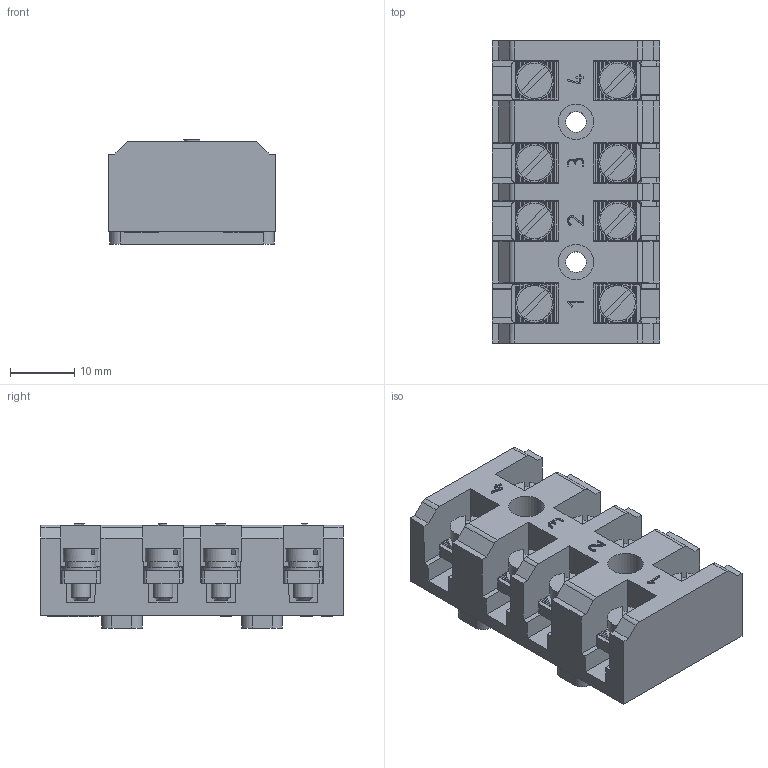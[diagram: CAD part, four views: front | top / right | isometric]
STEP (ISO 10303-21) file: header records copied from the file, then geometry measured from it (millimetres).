
FILE_DESCRIPTION(('STEP AP214'), '1');
FILE_NAME('Ñáîðêà 10 À äåòàëü', '2024-05-20T04:29:00', (''), (''), 'ASCON STEP Converter 1.6', 'ASCON Math Kernel', '');
FILE_SCHEMA(('AUTOMOTIVE_DESIGN { 1 0 10303 214 3 1 1}'));
Length unit declared in the file: millimetre
Products named in the file (1): ÁÇ26-1,5Ï10-Ê/Ê Ò3-4, òèï 1
Bounding box: 26 x 47 x 16.2 mm (x, y, z)
Volume: 11788.3 mm3; surface area: 10192.5 mm2
Topology: 1 solids, 1 shells, 2218 faces, 6420 edges, 4260 vertices
Faces by surface type: plane 1324, cylinder 870, cone 24
Full cylindrical faces by diameter (mm): 3 x8, 3.1 x8, 3.2 x10, 4.7 x8, 5.5 x10, 6 x8
Entity records: 92172 total; most frequent: CARTESIAN_POINT 15115, ORIENTED_EDGE 12720, DIRECTION 12254, EDGE_CURVE 6360, LINE 4352, VECTOR 4352, VERTEX_POINT 4260, AXIS2_PLACEMENT_3D 3951
